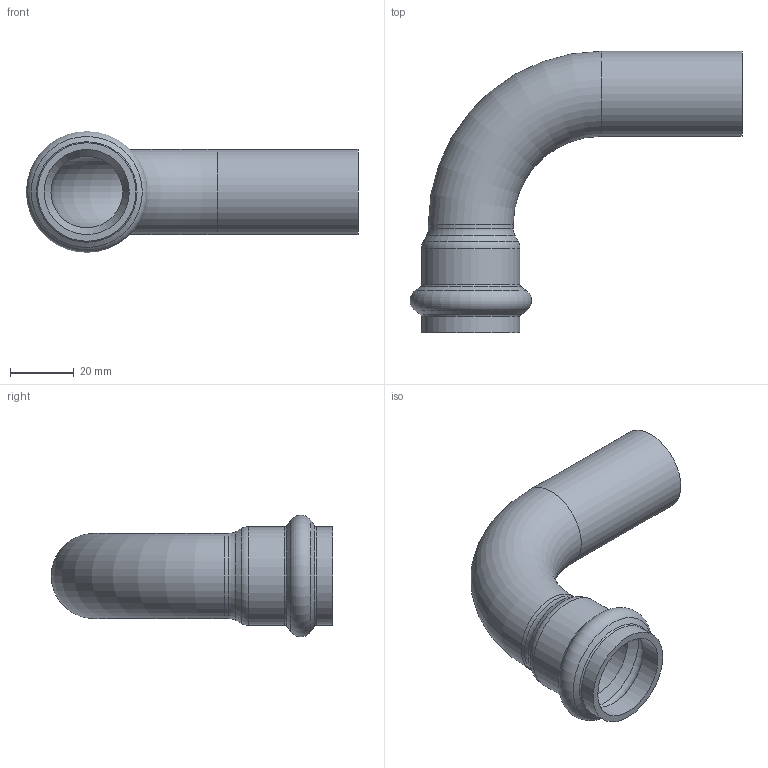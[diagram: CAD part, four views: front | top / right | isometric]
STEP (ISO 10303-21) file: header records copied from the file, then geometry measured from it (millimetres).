
FILE_DESCRIPTION(/* description */ ('VIC 90 DEG ST ELBOW STYLE P562 (P X T)','CAx-IF Rec.Pracs.---Representation and Presentation of Product Manufacturing Information (PMI)---4.0---2014-10-13'),/* implementation_level */ '2;1');
FILE_NAME(/* name */ 'C:\Users\kkamble\AppData\Roaming\Autodesk\ApplicationPlugins\Back Up\Victaulic_SS-Vic-Press-TP 316_Elbow Street 90 Deg_Style P562 (VPxPE)\Victaulic_SS-Vic-Press-TP 316_Elbow Street 90 Deg_Style P562 (VPxPE)_0.75 (20).stp',/* time_stamp */ '2020-08-14T14:07:17+06:00',/* author */ ('AAyare'),/* organization */ ('Victaulic'),/* preprocessor_version */ 'ST-DEVELOPER v17.2',/* originating_system */ 'Autodesk Inventor 2019',/* authorisation */ '');
FILE_SCHEMA (('AP242_MANAGED_MODEL_BASED_3D_ENGINEERING_MIM_LF { 1 0 10303 442 1 1 4 }'));
Length unit declared in the file: inch
Products named in the file (1): P562-0.75
Bounding box: 104.15 x 88.27 x 38.12 mm (x, y, z)
Volume: 25047.3 mm3; surface area: 24087.8 mm2
Topology: 1 solids, 1 shells, 24 faces, 82 edges, 60 vertices
Faces by surface type: torus 8, cylinder 8, cone 6, plane 2
Full cylindrical faces by diameter (mm): 22.454 x2, 26.67 x4, 30.886 x2
Entity records: 1098 total; most frequent: DIRECTION 226, CARTESIAN_POINT 184, ORIENTED_EDGE 164, AXIS2_PLACEMENT_3D 106, EDGE_CURVE 82, CIRCLE 68, VERTEX_POINT 60, EDGE_LOOP 26
